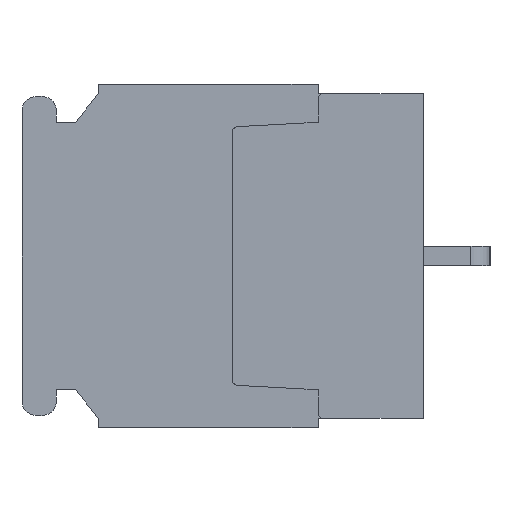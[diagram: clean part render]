
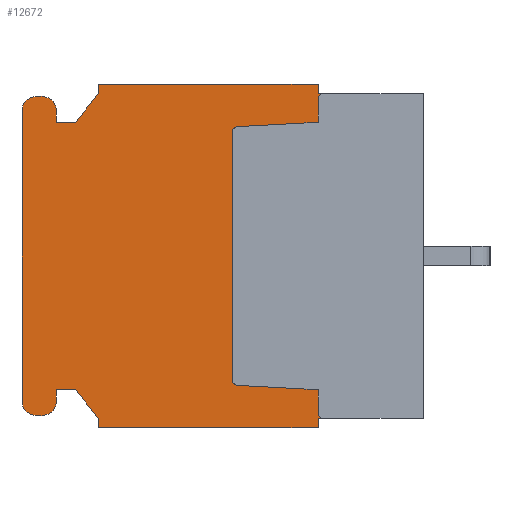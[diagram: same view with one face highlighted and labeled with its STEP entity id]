
A CAD part, left-side view. The second image highlights one B-rep face of the part: STEP entity #12672.
In plain terms, the highlighted planar face has unit normal (-1, 0, 0).
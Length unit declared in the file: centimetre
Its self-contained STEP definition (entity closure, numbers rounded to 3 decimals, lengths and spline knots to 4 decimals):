
#774=CIRCLE('',#21740,0.03);
#775=CIRCLE('',#21742,0.03);
#776=CIRCLE('',#21746,0.03);
#777=CIRCLE('',#21749,0.03);
#782=CIRCLE('',#21767,0.075);
#783=CIRCLE('',#21770,0.075);
#784=CIRCLE('',#21773,0.075);
#785=CIRCLE('',#21776,0.075);
#1325=VERTEX_POINT('',#17885);
#1326=VERTEX_POINT('',#17886);
#1327=VERTEX_POINT('',#17891);
#1328=VERTEX_POINT('',#17892);
#1329=VERTEX_POINT('',#17897);
#1330=VERTEX_POINT('',#17901);
#1331=VERTEX_POINT('',#17905);
#1332=VERTEX_POINT('',#17909);
#1333=VERTEX_POINT('',#17913);
#1334=VERTEX_POINT('',#17917);
#1355=VERTEX_POINT('',#17965);
#1356=VERTEX_POINT('',#17967);
#1357=VERTEX_POINT('',#17971);
#1358=VERTEX_POINT('',#17975);
#1359=VERTEX_POINT('',#17979);
#1360=VERTEX_POINT('',#17981);
#1361=VERTEX_POINT('',#17985);
#1362=VERTEX_POINT('',#17989);
#1363=VERTEX_POINT('',#17993);
#1364=VERTEX_POINT('',#17997);
#1365=VERTEX_POINT('',#18001);
#1366=VERTEX_POINT('',#18005);
#1367=VERTEX_POINT('',#18009);
#1368=VERTEX_POINT('',#18013);
#1369=VERTEX_POINT('',#18017);
#1370=VERTEX_POINT('',#18021);
#1371=VERTEX_POINT('',#18025);
#1372=VERTEX_POINT('',#18029);
#1373=VERTEX_POINT('',#18033);
#1374=VERTEX_POINT('',#18037);
#2586=VECTOR('',#14868,1.);
#2588=VECTOR('',#14871,1.);
#2591=VECTOR('',#14879,1.);
#2594=VECTOR('',#14887,1.);
#2596=VECTOR('',#14890,1.);
#2615=VECTOR('',#14919,1.);
#2617=VECTOR('',#14922,1.);
#2619=VECTOR('',#14925,1.);
#2622=VECTOR('',#14929,1.);
#2624=VECTOR('',#14932,1.);
#2626=VECTOR('',#14935,1.);
#2628=VECTOR('',#14938,1.);
#2630=VECTOR('',#14941,1.);
#2632=VECTOR('',#14944,1.);
#2635=VECTOR('',#14952,1.);
#2638=VECTOR('',#14960,1.);
#2641=VECTOR('',#14968,1.);
#2644=VECTOR('',#14976,1.);
#2646=VECTOR('',#14979,1.);
#2648=VECTOR('',#14982,1.);
#2649=VECTOR('',#14984,1.);
#2650=VECTOR('',#14985,1.);
#3992=LINE('',#17896,#2586);
#3994=LINE('',#17900,#2588);
#3997=LINE('',#17908,#2591);
#4000=LINE('',#17916,#2594);
#4002=LINE('',#17920,#2596);
#4021=LINE('',#17966,#2615);
#4023=LINE('',#17970,#2617);
#4025=LINE('',#17974,#2619);
#4028=LINE('',#17980,#2622);
#4030=LINE('',#17984,#2624);
#4032=LINE('',#17988,#2626);
#4034=LINE('',#17992,#2628);
#4036=LINE('',#17996,#2630);
#4038=LINE('',#18000,#2632);
#4041=LINE('',#18008,#2635);
#4044=LINE('',#18016,#2638);
#4047=LINE('',#18024,#2641);
#4050=LINE('',#18032,#2644);
#4052=LINE('',#18036,#2646);
#4054=LINE('',#18040,#2648);
#4055=LINE('',#18042,#2649);
#4056=LINE('',#18043,#2650);
#5660=EDGE_CURVE('',#1325,#1326,#774,.T.);
#5663=EDGE_CURVE('',#1327,#1328,#775,.T.);
#5666=EDGE_CURVE('',#1329,#1327,#3992,.T.);
#5668=EDGE_CURVE('',#1330,#1329,#3994,.T.);
#5670=EDGE_CURVE('',#1331,#1330,#776,.T.);
#5672=EDGE_CURVE('',#1332,#1331,#3997,.T.);
#5674=EDGE_CURVE('',#1333,#1332,#777,.T.);
#5676=EDGE_CURVE('',#1334,#1333,#4000,.T.);
#5678=EDGE_CURVE('',#1326,#1334,#4002,.T.);
#5701=EDGE_CURVE('',#1356,#1355,#4021,.T.);
#5703=EDGE_CURVE('',#1357,#1356,#4023,.T.);
#5705=EDGE_CURVE('',#1358,#1357,#4025,.T.);
#5708=EDGE_CURVE('',#1360,#1359,#4028,.T.);
#5710=EDGE_CURVE('',#1361,#1360,#4030,.T.);
#5712=EDGE_CURVE('',#1362,#1361,#4032,.T.);
#5714=EDGE_CURVE('',#1363,#1362,#4034,.T.);
#5716=EDGE_CURVE('',#1364,#1363,#4036,.T.);
#5718=EDGE_CURVE('',#1365,#1364,#4038,.T.);
#5720=EDGE_CURVE('',#1365,#1366,#782,.T.);
#5722=EDGE_CURVE('',#1367,#1366,#4041,.T.);
#5724=EDGE_CURVE('',#1367,#1368,#783,.T.);
#5726=EDGE_CURVE('',#1369,#1368,#4044,.T.);
#5728=EDGE_CURVE('',#1369,#1370,#784,.T.);
#5730=EDGE_CURVE('',#1371,#1370,#4047,.T.);
#5732=EDGE_CURVE('',#1371,#1372,#785,.T.);
#5734=EDGE_CURVE('',#1373,#1372,#4050,.T.);
#5736=EDGE_CURVE('',#1374,#1373,#4052,.T.);
#5738=EDGE_CURVE('',#1355,#1374,#4054,.T.);
#5739=EDGE_CURVE('',#1325,#1358,#4055,.T.);
#5740=EDGE_CURVE('',#1359,#1328,#4056,.T.);
#8342=ORIENTED_EDGE('',*,*,#5663,.F.);
#8343=ORIENTED_EDGE('',*,*,#5666,.F.);
#8344=ORIENTED_EDGE('',*,*,#5668,.F.);
#8345=ORIENTED_EDGE('',*,*,#5670,.F.);
#8346=ORIENTED_EDGE('',*,*,#5672,.F.);
#8347=ORIENTED_EDGE('',*,*,#5674,.F.);
#8348=ORIENTED_EDGE('',*,*,#5676,.F.);
#8349=ORIENTED_EDGE('',*,*,#5678,.F.);
#8350=ORIENTED_EDGE('',*,*,#5660,.F.);
#8351=ORIENTED_EDGE('',*,*,#5739,.T.);
#8352=ORIENTED_EDGE('',*,*,#5705,.T.);
#8353=ORIENTED_EDGE('',*,*,#5703,.T.);
#8354=ORIENTED_EDGE('',*,*,#5701,.T.);
#8355=ORIENTED_EDGE('',*,*,#5738,.T.);
#8356=ORIENTED_EDGE('',*,*,#5736,.T.);
#8357=ORIENTED_EDGE('',*,*,#5734,.T.);
#8358=ORIENTED_EDGE('',*,*,#5732,.F.);
#8359=ORIENTED_EDGE('',*,*,#5730,.T.);
#8360=ORIENTED_EDGE('',*,*,#5728,.F.);
#8361=ORIENTED_EDGE('',*,*,#5726,.T.);
#8362=ORIENTED_EDGE('',*,*,#5724,.F.);
#8363=ORIENTED_EDGE('',*,*,#5722,.T.);
#8364=ORIENTED_EDGE('',*,*,#5720,.F.);
#8365=ORIENTED_EDGE('',*,*,#5718,.T.);
#8366=ORIENTED_EDGE('',*,*,#5716,.T.);
#8367=ORIENTED_EDGE('',*,*,#5714,.T.);
#8368=ORIENTED_EDGE('',*,*,#5712,.T.);
#8369=ORIENTED_EDGE('',*,*,#5710,.T.);
#8370=ORIENTED_EDGE('',*,*,#5708,.T.);
#8371=ORIENTED_EDGE('',*,*,#5740,.T.);
#11058=EDGE_LOOP('',(#8342,#8343,#8344,#8345,#8346,#8347,#8348,#8349,#8350,
#8351,#8352,#8353,#8354,#8355,#8356,#8357,#8358,#8359,#8360,#8361,#8362,
#8363,#8364,#8365,#8366,#8367,#8368,#8369,#8370,#8371));
#11876=FACE_BOUND('',#11058,.T.);
#12672=ADVANCED_FACE('',(#11876),#13326,.F.);
#13326=PLANE('',#21780);
#14857=DIRECTION('',(-1.,0.,0.));
#14858=DIRECTION('',(0.,0.,-0.03));
#14863=DIRECTION('',(-1.,0.,0.));
#14864=DIRECTION('',(0.,0.,-0.03));
#14868=DIRECTION('',(0.,0.,-1.));
#14871=DIRECTION('',(0.,-0.999,-0.054));
#14875=DIRECTION('',(-1.,0.,0.));
#14876=DIRECTION('',(0.,0.,-0.03));
#14879=DIRECTION('',(0.,0.,-1.));
#14883=DIRECTION('',(-1.,0.,0.));
#14884=DIRECTION('',(0.,0.,-0.03));
#14887=DIRECTION('',(0.,0.999,-0.054));
#14890=DIRECTION('',(0.,0.,-1.));
#14919=DIRECTION('',(0.,0.,-1.));
#14922=DIRECTION('',(0.,1.,0.));
#14925=DIRECTION('',(0.,0.,1.));
#14929=DIRECTION('',(0.,0.,1.));
#14932=DIRECTION('',(0.,-1.,0.));
#14935=DIRECTION('',(0.,0.,-1.));
#14938=DIRECTION('',(0.,-0.625,-0.781));
#14941=DIRECTION('',(0.,-1.,0.));
#14944=DIRECTION('',(0.,0.,1.));
#14948=DIRECTION('',(1.,0.,0.));
#14949=DIRECTION('',(0.,0.,-0.075));
#14952=DIRECTION('',(0.,-1.,0.));
#14956=DIRECTION('',(1.,0.,0.));
#14957=DIRECTION('',(0.,0.,-0.075));
#14960=DIRECTION('',(0.,0.,-1.));
#14964=DIRECTION('',(1.,0.,0.));
#14965=DIRECTION('',(0.,0.,-0.075));
#14968=DIRECTION('',(0.,1.,0.));
#14972=DIRECTION('',(1.,0.,0.));
#14973=DIRECTION('',(0.,0.,-0.075));
#14976=DIRECTION('',(0.,0.,1.));
#14979=DIRECTION('',(0.,1.,0.));
#14982=DIRECTION('',(0.,0.625,-0.781));
#14983=DIRECTION('',(1.,0.,0.));
#14984=DIRECTION('',(0.,1.,0.));
#14985=DIRECTION('',(0.,-1.,0.));
#17884=CARTESIAN_POINT('',(0.1,0.52,0.82));
#17885=CARTESIAN_POINT('',(0.1,0.52,0.85));
#17886=CARTESIAN_POINT('',(0.1,0.55,0.82));
#17890=CARTESIAN_POINT('',(0.1,0.52,-0.82));
#17891=CARTESIAN_POINT('',(0.1,0.55,-0.82));
#17892=CARTESIAN_POINT('',(0.1,0.52,-0.85));
#17896=CARTESIAN_POINT('',(0.1,0.55,-0.82));
#17897=CARTESIAN_POINT('',(0.1,0.55,-0.7));
#17900=CARTESIAN_POINT('',(0.1,0.55,-0.7));
#17901=CARTESIAN_POINT('',(0.1,0.9718,-0.6773));
#17904=CARTESIAN_POINT('',(0.1,0.97,-0.6473));
#17905=CARTESIAN_POINT('',(0.1,1.,-0.6473));
#17908=CARTESIAN_POINT('',(0.1,1.,-0.6473));
#17909=CARTESIAN_POINT('',(0.1,1.,0.6473));
#17912=CARTESIAN_POINT('',(0.1,0.97,0.6473));
#17913=CARTESIAN_POINT('',(0.1,0.9718,0.6773));
#17916=CARTESIAN_POINT('',(0.1,0.9718,0.6773));
#17917=CARTESIAN_POINT('',(0.1,0.55,0.7));
#17920=CARTESIAN_POINT('',(0.1,0.55,0.7));
#17965=CARTESIAN_POINT('',(0.1,1.7,0.85));
#17966=CARTESIAN_POINT('',(0.1,1.7,0.9));
#17967=CARTESIAN_POINT('',(0.1,1.7,0.9));
#17970=CARTESIAN_POINT('',(0.1,0.55,0.9));
#17971=CARTESIAN_POINT('',(0.1,0.55,0.9));
#17974=CARTESIAN_POINT('',(0.1,0.55,0.85));
#17975=CARTESIAN_POINT('',(0.1,0.55,0.85));
#17979=CARTESIAN_POINT('',(0.1,0.55,-0.85));
#17980=CARTESIAN_POINT('',(0.1,0.55,-0.9));
#17981=CARTESIAN_POINT('',(0.1,0.55,-0.9));
#17984=CARTESIAN_POINT('',(0.1,1.7,-0.9));
#17985=CARTESIAN_POINT('',(0.1,1.7,-0.9));
#17988=CARTESIAN_POINT('',(0.1,1.7,-0.85));
#17989=CARTESIAN_POINT('',(0.1,1.7,-0.85));
#17992=CARTESIAN_POINT('',(0.1,1.82,-0.7));
#17993=CARTESIAN_POINT('',(0.1,1.82,-0.7));
#17996=CARTESIAN_POINT('',(0.1,1.92,-0.7));
#17997=CARTESIAN_POINT('',(0.1,1.92,-0.7));
#18000=CARTESIAN_POINT('',(0.1,1.92,-0.76));
#18001=CARTESIAN_POINT('',(0.1,1.92,-0.76));
#18004=CARTESIAN_POINT('',(0.1,1.995,-0.76));
#18005=CARTESIAN_POINT('',(0.1,1.995,-0.835));
#18008=CARTESIAN_POINT('',(0.1,2.025,-0.835));
#18009=CARTESIAN_POINT('',(0.1,2.025,-0.835));
#18012=CARTESIAN_POINT('',(0.1,2.025,-0.76));
#18013=CARTESIAN_POINT('',(0.1,2.1,-0.76));
#18016=CARTESIAN_POINT('',(0.1,2.1,0.76));
#18017=CARTESIAN_POINT('',(0.1,2.1,0.76));
#18020=CARTESIAN_POINT('',(0.1,2.025,0.76));
#18021=CARTESIAN_POINT('',(0.1,2.025,0.835));
#18024=CARTESIAN_POINT('',(0.1,1.995,0.835));
#18025=CARTESIAN_POINT('',(0.1,1.995,0.835));
#18028=CARTESIAN_POINT('',(0.1,1.995,0.76));
#18029=CARTESIAN_POINT('',(0.1,1.92,0.76));
#18032=CARTESIAN_POINT('',(0.1,1.92,0.7));
#18033=CARTESIAN_POINT('',(0.1,1.92,0.7));
#18036=CARTESIAN_POINT('',(0.1,1.82,0.7));
#18037=CARTESIAN_POINT('',(0.1,1.82,0.7));
#18040=CARTESIAN_POINT('',(0.1,1.7,0.85));
#18041=CARTESIAN_POINT('',(0.1,1.0745,0.));
#18042=CARTESIAN_POINT('',(0.1,0.,0.85));
#18043=CARTESIAN_POINT('',(0.1,0.55,-0.85));
#21740=AXIS2_PLACEMENT_3D('',#17884,#14857,#14858);
#21742=AXIS2_PLACEMENT_3D('',#17890,#14863,#14864);
#21746=AXIS2_PLACEMENT_3D('',#17904,#14875,#14876);
#21749=AXIS2_PLACEMENT_3D('',#17912,#14883,#14884);
#21767=AXIS2_PLACEMENT_3D('',#18004,#14948,#14949);
#21770=AXIS2_PLACEMENT_3D('',#18012,#14956,#14957);
#21773=AXIS2_PLACEMENT_3D('',#18020,#14964,#14965);
#21776=AXIS2_PLACEMENT_3D('',#18028,#14972,#14973);
#21780=AXIS2_PLACEMENT_3D('',#18041,#14983,$);
